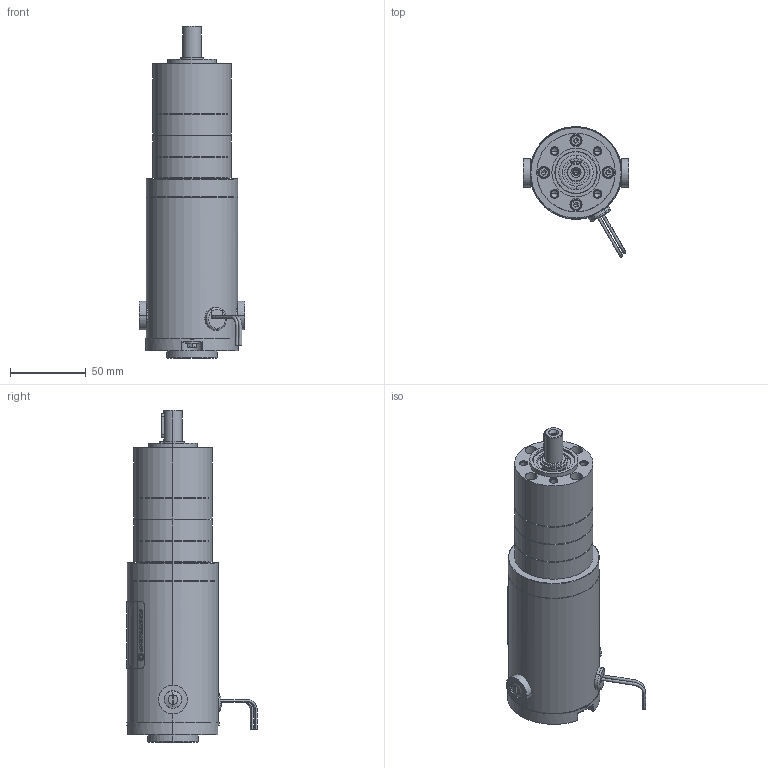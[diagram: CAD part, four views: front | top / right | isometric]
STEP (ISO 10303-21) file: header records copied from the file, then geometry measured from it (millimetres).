
FILE_DESCRIPTION (( 'STEP AP214' ), '1' );
FILE_NAME ('PM6013-PL5200i_3S.STEP', '2013-05-01T14:30:06', ( '' ), ( '' ), 'SwSTEP 2.0', 'SolidWorks 2013', '' );
FILE_SCHEMA (( 'AUTOMOTIVE_DESIGN' ));
Length unit declared in the file: inch
Products named in the file (1): PM6013-PL5200i_3S
Bounding box: 69.81 x 86.45 x 219.83 mm (x, y, z)
Surface area: 137548.6 mm2 (no closed solid volume)
Topology: 0 solids, 41 shells, 2076 faces, 5526 edges, 3569 vertices
Faces by surface type: plane 728, cylinder 701, bspline 389, cone 183, torus 61, sphere 14
Entity records: 115948 total; most frequent: CARTESIAN_POINT 38976, ORIENTED_EDGE 10900, DIRECTION 9468, EDGE_CURVE 5460, VERTEX_POINT 3555, AXIS2_PLACEMENT_3D 3482, VECTOR 2504, LINE 2504
